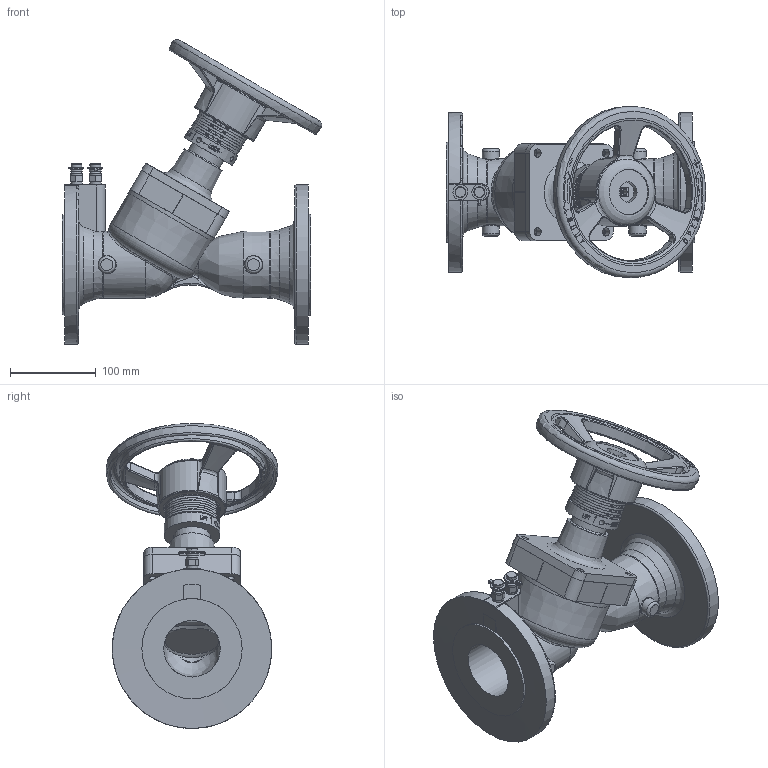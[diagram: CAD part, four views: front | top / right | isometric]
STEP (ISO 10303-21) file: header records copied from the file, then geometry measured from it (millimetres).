
FILE_DESCRIPTION((''),'2;1');
FILE_NAME('P:\Fastrack\53972_CRANE 3D\DM921-941\WORKSPACE\DM921-941\DM941_DN65\NEW\DM941_DN65.stp','2011-02-25T10:03:06',('btaylor'),(''),'Autodesk Inventor 2008','Autodesk Inventor 2008','');
FILE_SCHEMA(('AUTOMOTIVE_DESIGN { 1 0 10303 214 1 1 1 1 }'));
Length unit declared in the file: millimetre
Products named in the file (1): DM941_DN65
Bounding box: 302.37 x 200.2 x 355.63 mm (x, y, z)
Volume: 2658224.6 mm3; surface area: 382933.5 mm2
Topology: 1 solids, 1 shells, 854 faces, 2171 edges, 1385 vertices
Faces by surface type: plane 347, bspline 257, cylinder 157, cone 49, torus 44
Full cylindrical faces by diameter (mm): 6 x2, 7.4 x2, 8 x4, 9.5 x4, 11 x2, 12.7 x2, 13.7 x2, 20 x8, 24 x1, 40 x1, 42 x2, 53 x1, 55.7 x1, 58 x1, 62 x4, 65 x1, 66.01 x2, 78.01 x2, 118 x1, 186.01 x1
Entity records: 73265 total; most frequent: CARTESIAN_POINT 54307, ORIENTED_EDGE 4050, DIRECTION 3050, EDGE_CURVE 2025, VERTEX_POINT 1334, AXIS2_PLACEMENT_3D 1113, EDGE_LOOP 1044, FACE_OUTER_BOUND 854
